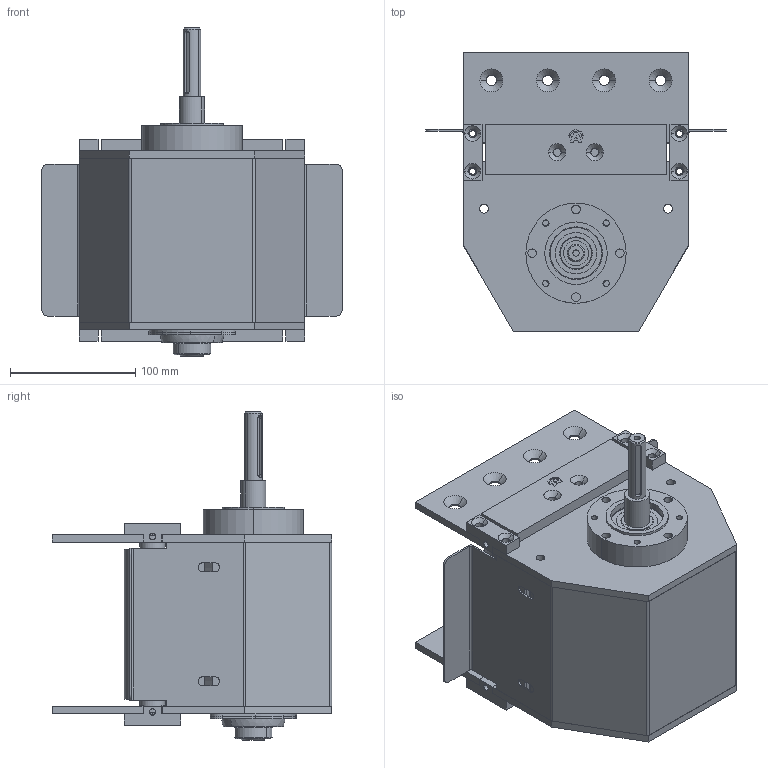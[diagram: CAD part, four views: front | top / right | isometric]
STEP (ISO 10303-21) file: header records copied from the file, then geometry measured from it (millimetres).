
FILE_DESCRIPTION (( 'STEP AP203' ), '1' );
FILE_NAME ('084.050.KCS.30.100.STEP', '2017-11-17T14:26:22', ( 'Localadmin' ), ( 'Microsoft' ), 'SwSTEP 2.0', 'SolidWorks 2016', '' );
FILE_SCHEMA (( 'CONFIG_CONTROL_DESIGN' ));
Length unit declared in the file: millimetre
Products named in the file (1): 084.050.KCS.30.100
Bounding box: 240 x 223 x 262 mm (x, y, z)
Surface area: 426915 mm2 (no closed solid volume)
Topology: 0 solids, 49 shells, 436 faces, 1524 edges, 1132 vertices
Faces by surface type: cylinder 188, plane 176, cone 58, torus 10, sphere 4
Entity records: 16773 total; most frequent: CARTESIAN_POINT 3149, DIRECTION 2962, ORIENTED_EDGE 2372, EDGE_CURVE 1520, VERTEX_POINT 1130, AXIS2_PLACEMENT_3D 1007, LINE 948, VECTOR 948
